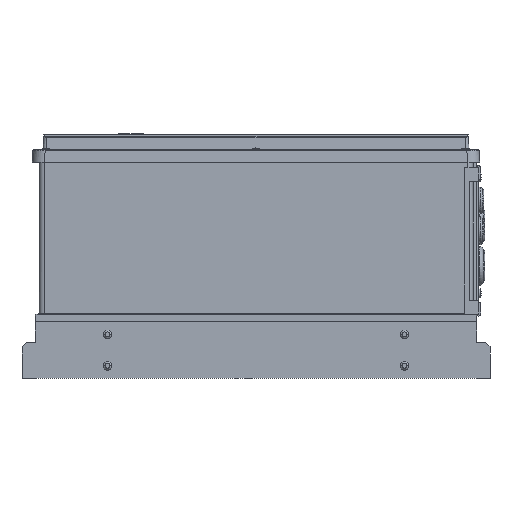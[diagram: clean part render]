
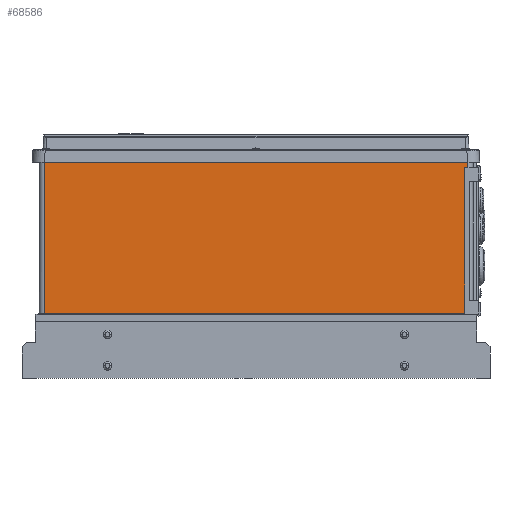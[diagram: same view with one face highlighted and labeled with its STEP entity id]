
A CAD part, left-side view. The second image highlights one B-rep face of the part: STEP entity #68586.
In plain terms, the highlighted planar face has unit normal (-1, 0, 0).
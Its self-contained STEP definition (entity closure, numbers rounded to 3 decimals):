
#11267=CARTESIAN_POINT('',(-111.5,480.006,178.456));
#11268=CARTESIAN_POINT('',(-111.5,480.006,178.455));
#11269=CARTESIAN_POINT('',(-111.5,480.004,
178.455));
#11270=CARTESIAN_POINT('',(-111.5,480.002,
178.453));
#11271=CARTESIAN_POINT('',(-111.5,480.001,
178.453));
#11272=CARTESIAN_POINT('',(-111.5,480.,
178.452));
#11318=CARTESIAN_POINT('',(-111.5,480.,
178.452));
#11342=CARTESIAN_POINT('',(-111.5,480.,
9.546));
#11759=DIRECTION('',(0.,0.,1.));
#11760=VECTOR('',#11759,3.3);
#11761=CARTESIAN_POINT('',(-111.5,10.,163.));
#11762=LINE('',#11761,#11760);
#11795=DIRECTION('',(0.,0.,1.));
#11796=VECTOR('',#11795,3.3);
#11797=CARTESIAN_POINT('',(-111.5,10.,15.));
#11798=LINE('',#11797,#11796);
#12679=CARTESIAN_POINT('',(-111.5,10.,15.));
#12727=CARTESIAN_POINT('',(-111.5,10.,18.3));
#12729=CARTESIAN_POINT('',(-111.5,10.,163.));
#12781=CARTESIAN_POINT('',(-111.5,10.,166.3));
#12783=CARTESIAN_POINT('',(-111.5,10.,
178.452));
#12931=CARTESIAN_POINT('',(-111.5,480.003,
9.544));
#12932=CARTESIAN_POINT('',(-111.5,462.826,
9.544));
#12933=CARTESIAN_POINT('',(-111.5,429.598,
9.544));
#12934=CARTESIAN_POINT('',(-111.5,383.207,
9.544));
#12935=CARTESIAN_POINT('',(-111.5,340.035,
9.544));
#12936=CARTESIAN_POINT('',(-111.5,299.931,
9.544));
#12937=CARTESIAN_POINT('',(-111.5,262.722,
9.544));
#12938=CARTESIAN_POINT('',(-111.5,228.242,9.544));
#12939=CARTESIAN_POINT('',(-111.5,196.322,9.544));
#12940=CARTESIAN_POINT('',(-111.5,166.796,9.544));
#12941=CARTESIAN_POINT('',(-111.5,139.485,
9.544));
#12942=CARTESIAN_POINT('',(-111.5,114.164,
9.544));
#12943=CARTESIAN_POINT('',(-111.5,90.616,
9.544));
#12944=CARTESIAN_POINT('',(-111.5,68.616,
9.544));
#12945=CARTESIAN_POINT('',(-111.5,47.958,
9.545));
#12946=CARTESIAN_POINT('',(-111.5,28.374,
9.544));
#12947=CARTESIAN_POINT('',(-111.5,16.008,
9.546));
#12948=CARTESIAN_POINT('',(-111.5,10.,
9.546));
#12950=DIRECTION('',(0.,0.,1.));
#12951=VECTOR('',#12950,144.7);
#12952=CARTESIAN_POINT('',(-111.5,10.,18.3));
#12953=LINE('',#12952,#12951);
#12954=DIRECTION('',(0.,0.,1.));
#12955=VECTOR('',#12954,5.454);
#12956=CARTESIAN_POINT('',(-111.5,10.,
9.546));
#12957=LINE('',#12956,#12955);
#12958=CARTESIAN_POINT('',(-111.5,480.,
9.546));
#12959=CARTESIAN_POINT('',(-111.5,480.,
9.546));
#12960=CARTESIAN_POINT('',(-111.5,480.001,
9.545));
#12961=CARTESIAN_POINT('',(-111.5,480.002,
9.545));
#12962=CARTESIAN_POINT('',(-111.5,480.002,
9.545));
#12963=CARTESIAN_POINT('',(-111.5,480.003,
9.544));
#12965=DIRECTION('',(0.,0.,1.));
#12966=VECTOR('',#12965,168.906);
#12967=CARTESIAN_POINT('',(-111.5,480.,
9.546));
#12968=LINE('',#12967,#12966);
#12969=DIRECTION('',(0.,-1.,0.));
#12970=VECTOR('',#12969,470.013);
#12971=CARTESIAN_POINT('',(-111.5,480.006,178.456));
#12972=LINE('',#12971,#12970);
#12973=CARTESIAN_POINT('',(-111.5,10.,
178.452));
#12974=CARTESIAN_POINT('',(-111.5,9.999,
178.453));
#12975=CARTESIAN_POINT('',(-111.5,9.998,
178.454));
#12976=CARTESIAN_POINT('',(-111.5,9.996,
178.455));
#12977=CARTESIAN_POINT('',(-111.5,9.994,178.455));
#12978=CARTESIAN_POINT('',(-111.5,9.994,178.456));
#12980=DIRECTION('',(0.,0.,1.));
#12981=VECTOR('',#12980,12.152);
#12982=CARTESIAN_POINT('',(-111.5,10.,166.3));
#12983=LINE('',#12982,#12981);
#13059=CARTESIAN_POINT('',(-111.5,480.003,
9.544));
#40317=VERTEX_POINT('',#13059);
#40326=VERTEX_POINT('',#11342);
#40340=VERTEX_POINT('',#12948);
#40807=VERTEX_POINT('',#12729);
#40808=VERTEX_POINT('',#12679);
#40892=VERTEX_POINT('',#12727);
#40896=VERTEX_POINT('',#12781);
#40920=VERTEX_POINT('',#12783);
#40944=VERTEX_POINT('',#11318);
#40947=VERTEX_POINT('',#11267);
#40949=VERTEX_POINT('',#12978);
#68565=CARTESIAN_POINT('',(-111.5,4.,8.));
#68566=DIRECTION('',(1.,0.,0.));
#68567=DIRECTION('',(0.,1.,0.));
#68568=AXIS2_PLACEMENT_3D('',#68565,#68566,#68567);
#68569=PLANE('',#68568);
#68570=ORIENTED_EDGE('',*,*,#67196,.F.);
#68571=ORIENTED_EDGE('',*,*,#68300,.F.);
#68572=ORIENTED_EDGE('',*,*,#67218,.F.);
#68573=ORIENTED_EDGE('',*,*,#68288,.F.);
#68574=ORIENTED_EDGE('',*,*,#68556,.F.);
#68576=ORIENTED_EDGE('',*,*,#68575,.F.);
#68577=ORIENTED_EDGE('',*,*,#66791,.T.);
#68578=ORIENTED_EDGE('',*,*,#66778,.F.);
#68580=ORIENTED_EDGE('',*,*,#68579,.T.);
#68582=ORIENTED_EDGE('',*,*,#68581,.F.);
#68583=ORIENTED_EDGE('',*,*,#68315,.F.);
#68584=EDGE_LOOP('',(#68570,#68571,#68572,#68573,#68574,#68576,#68577,#68578,
#68580,#68582,#68583));
#68585=FACE_OUTER_BOUND('',#68584,.F.);
#68586=ADVANCED_FACE('',(#68585),#68569,.F.);
#11273=B_SPLINE_CURVE_WITH_KNOTS('',3,(#11267,#11268,#11269,#11270,#11271,
#11272),.UNSPECIFIED.,.F.,.F.,(4,1,1,4),(0.,0.333,
0.667,1.),.UNSPECIFIED.);
#12949=B_SPLINE_CURVE_WITH_KNOTS('',3,(#12931,#12932,#12933,#12934,#12935,
#12936,#12937,#12938,#12939,#12940,#12941,#12942,#12943,#12944,#12945,#12946,
#12947,#12948),.UNSPECIFIED.,.F.,.F.,(4,1,1,1,1,1,1,1,1,1,1,1,1,1,1,4),(0.,
0.067,0.133,0.2,0.267,0.333,
0.4,0.467,0.533,0.6,0.667,
0.733,0.8,0.867,0.933,1.),
.UNSPECIFIED.);
#12964=B_SPLINE_CURVE_WITH_KNOTS('',3,(#12958,#12959,#12960,#12961,#12962,
#12963),.UNSPECIFIED.,.F.,.F.,(4,1,1,4),(0.,0.333,
0.667,1.),.UNSPECIFIED.);
#12979=B_SPLINE_CURVE_WITH_KNOTS('',3,(#12973,#12974,#12975,#12976,#12977,
#12978),.UNSPECIFIED.,.F.,.F.,(4,1,1,4),(0.,0.333,
0.667,1.),.UNSPECIFIED.);
#66778=EDGE_CURVE('',#40947,#40944,#11273,.T.);
#66791=EDGE_CURVE('',#40326,#40944,#12968,.T.);
#67196=EDGE_CURVE('',#40807,#40896,#11762,.T.);
#67218=EDGE_CURVE('',#40808,#40892,#11798,.T.);
#68288=EDGE_CURVE('',#40340,#40808,#12957,.T.);
#68300=EDGE_CURVE('',#40892,#40807,#12953,.T.);
#68315=EDGE_CURVE('',#40896,#40920,#12983,.T.);
#68556=EDGE_CURVE('',#40317,#40340,#12949,.T.);
#68575=EDGE_CURVE('',#40326,#40317,#12964,.T.);
#68579=EDGE_CURVE('',#40947,#40949,#12972,.T.);
#68581=EDGE_CURVE('',#40920,#40949,#12979,.T.);
